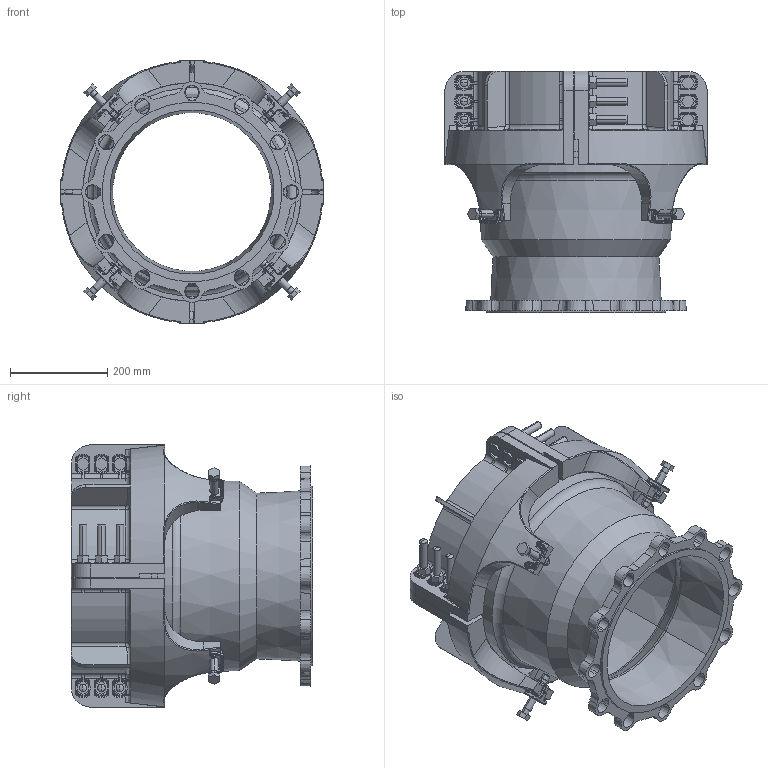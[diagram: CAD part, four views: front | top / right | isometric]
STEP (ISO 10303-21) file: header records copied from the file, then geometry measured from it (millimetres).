
FILE_DESCRIPTION((''),'2;1');
FILE_NAME('13497_1_SW0001','2017-05-08T',('mfairey'),('Glynwed Pipe Systems'),'PRO/ENGINEER BY PARAMETRIC TECHNOLOGY CORPORATION, 2006020','PRO/ENGINEER BY PARAMETRIC TECHNOLOGY CORPORATION, 2006020','');
FILE_SCHEMA(('CONFIG_CONTROL_DESIGN'));
Length unit declared in the file: millimetre
Products named in the file (1): 13497_1_SW0001
Bounding box: 539.91 x 497 x 539.91 mm (x, y, z)
Surface area: 2576550.9 mm2 (no closed solid volume)
Topology: 0 solids, 65 shells, 2041 faces, 5412 edges, 3406 vertices
Faces by surface type: cylinder 690, plane 643, torus 302, bspline 208, cone 118, sphere 80
Entity records: 72308 total; most frequent: CARTESIAN_POINT 22695, DIRECTION 10582, ORIENTED_EDGE 9912, EDGE_CURVE 5380, AXIS2_PLACEMENT_3D 4085, VERTEX_POINT 3406, VECTOR 2412, LINE 2412
